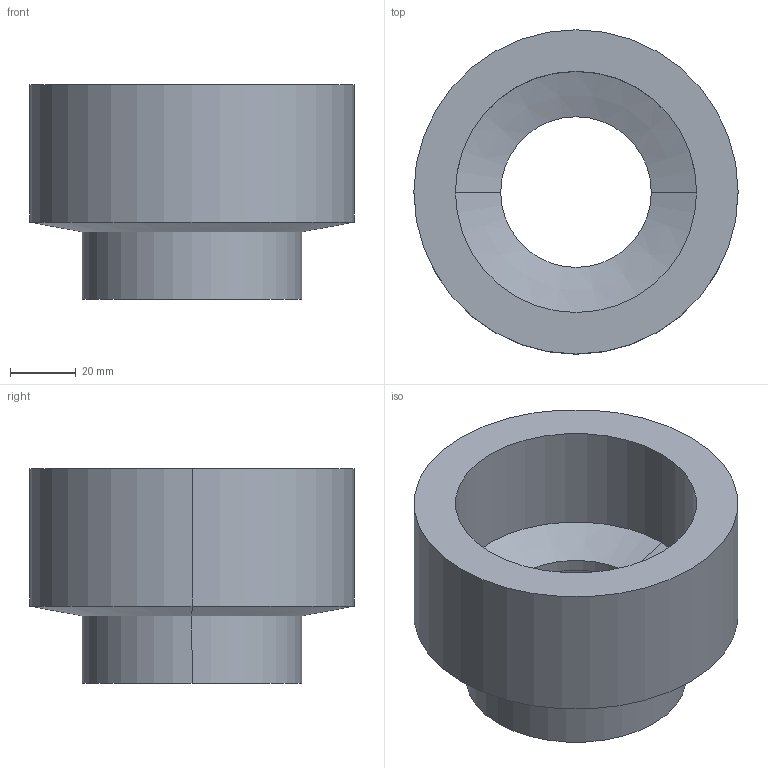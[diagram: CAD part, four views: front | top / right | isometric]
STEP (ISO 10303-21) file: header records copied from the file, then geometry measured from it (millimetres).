
FILE_DESCRIPTION (( 'STEP AP203' ), '1' );
FILE_NAME ('PMR18 FADO.STEP', '2022-08-23T10:49:34', ( '' ), ( '' ), 'SwSTEP 2.0', 'SolidWorks 2021', '' );
FILE_SCHEMA (( 'CONFIG_CONTROL_DESIGN' ));
Length unit declared in the file: millimetre
Products named in the file (1): PMR18 FADO
Bounding box: 98.8 x 98.8 x 65.5 mm (x, y, z)
Volume: 205535.4 mm3; surface area: 41450.4 mm2
Topology: 1 solids, 1 shells, 17 faces, 34 edges, 20 vertices
Faces by surface type: cylinder 10, cone 4, plane 3
Entity records: 525 total; most frequent: DIRECTION 90, CARTESIAN_POINT 72, ORIENTED_EDGE 68, AXIS2_PLACEMENT_3D 38, EDGE_CURVE 34, EDGE_LOOP 20, CIRCLE 20, VERTEX_POINT 20
